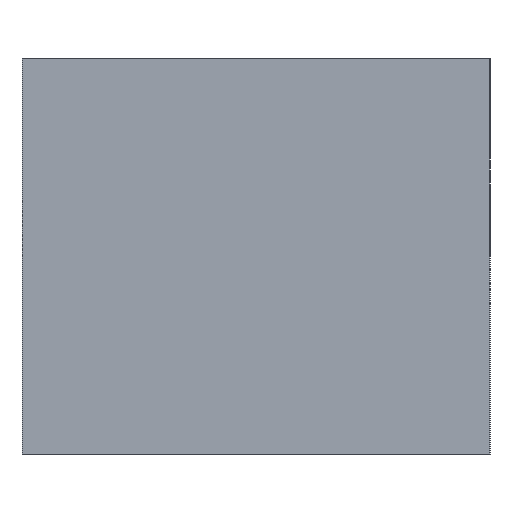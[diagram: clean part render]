
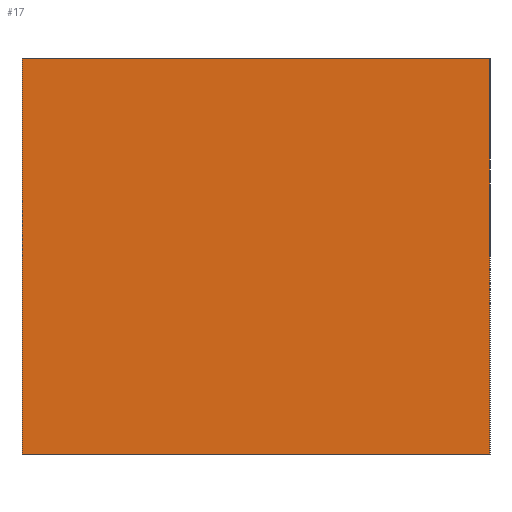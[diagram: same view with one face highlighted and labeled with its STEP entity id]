
A CAD part, left-side view. The second image highlights one B-rep face of the part: STEP entity #17.
In plain terms, the highlighted planar face has unit normal (-1, 0, 0).
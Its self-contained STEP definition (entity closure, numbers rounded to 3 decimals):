
#17 = ADVANCED_FACE('',(#18),#52,.F.);
#18 = FACE_BOUND('',#19,.F.);
#19 = EDGE_LOOP('',(#20,#30,#38,#46));
#20 = ORIENTED_EDGE('',*,*,#21,.F.);
#21 = EDGE_CURVE('',#22,#24,#26,.T.);
#22 = VERTEX_POINT('',#23);
#23 = CARTESIAN_POINT('',(-450.,-130.,0.));
#24 = VERTEX_POINT('',#25);
#25 = CARTESIAN_POINT('',(-450.,-130.,220.));
#26 = LINE('',#27,#28);
#27 = CARTESIAN_POINT('',(-450.,-130.,0.));
#28 = VECTOR('',#29,1.);
#29 = DIRECTION('',(0.,0.,1.));
#30 = ORIENTED_EDGE('',*,*,#31,.T.);
#31 = EDGE_CURVE('',#22,#32,#34,.T.);
#32 = VERTEX_POINT('',#33);
#33 = CARTESIAN_POINT('',(-450.,130.,0.));
#34 = LINE('',#35,#36);
#35 = CARTESIAN_POINT('',(-450.,-130.,0.));
#36 = VECTOR('',#37,1.);
#37 = DIRECTION('',(-0.,1.,0.));
#38 = ORIENTED_EDGE('',*,*,#39,.T.);
#39 = EDGE_CURVE('',#32,#40,#42,.T.);
#40 = VERTEX_POINT('',#41);
#41 = CARTESIAN_POINT('',(-450.,130.,220.));
#42 = LINE('',#43,#44);
#43 = CARTESIAN_POINT('',(-450.,130.,0.));
#44 = VECTOR('',#45,1.);
#45 = DIRECTION('',(0.,0.,1.));
#46 = ORIENTED_EDGE('',*,*,#47,.F.);
#47 = EDGE_CURVE('',#24,#40,#48,.T.);
#48 = LINE('',#49,#50);
#49 = CARTESIAN_POINT('',(-450.,-130.,220.));
#50 = VECTOR('',#51,1.);
#51 = DIRECTION('',(-0.,1.,0.));
#52 = PLANE('',#53);
#53 = AXIS2_PLACEMENT_3D('',#54,#55,#56);
#54 = CARTESIAN_POINT('',(-450.,-130.,0.));
#55 = DIRECTION('',(1.,0.,-0.));
#56 = DIRECTION('',(0.,0.,1.));
